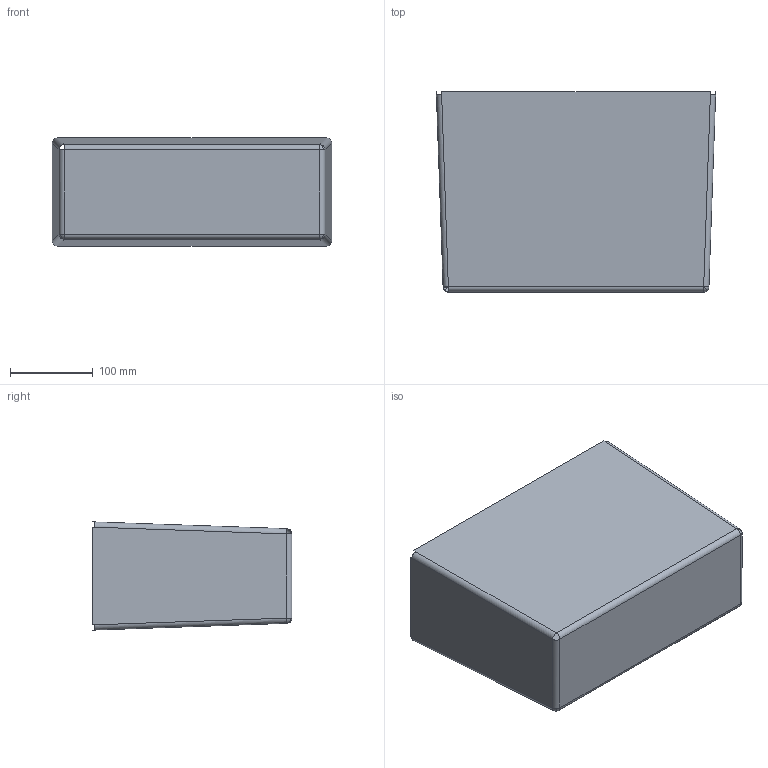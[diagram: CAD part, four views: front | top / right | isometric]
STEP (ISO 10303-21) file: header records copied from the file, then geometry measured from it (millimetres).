
FILE_DESCRIPTION (( 'STEP AP203' ), '1' );
FILE_NAME ('1420 Surface Rev A Bottom.STEP', '2005-05-05T23:24:25', ( ' ' ), ( ' ' ), 'SwSTEP 2.0', 'SolidWorks 2004286', '' );
FILE_SCHEMA (( 'CONFIG_CONTROL_DESIGN' ));
Length unit declared in the file: inch
Products named in the file (1): 1420 Surface Rev A Bottom
Bounding box: 338.04 x 241.94 x 131.03 mm (x, y, z)
Surface area: 250551.4 mm2 (no closed solid volume)
Topology: 0 solids, 1 shells, 19 faces, 88 edges, 66 vertices
Faces by surface type: cylinder 8, sphere 6, plane 5
Entity records: 972 total; most frequent: CARTESIAN_POINT 283, ORIENTED_EDGE 119, DIRECTION 110, EDGE_CURVE 85, VERTEX_POINT 66, AXIS2_PLACEMENT_3D 41, B_SPLINE_CURVE_WITH_KNOTS 32, VECTOR 28
